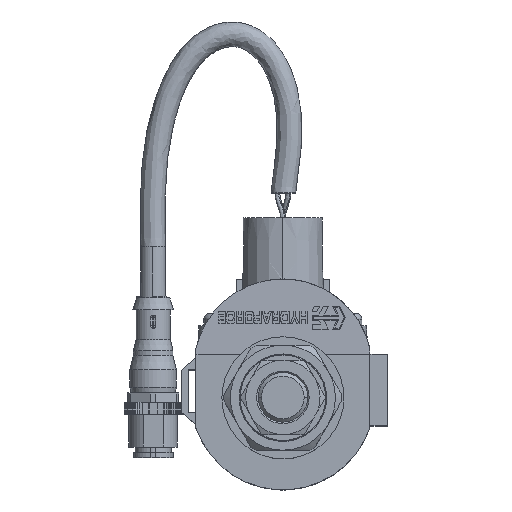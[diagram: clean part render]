
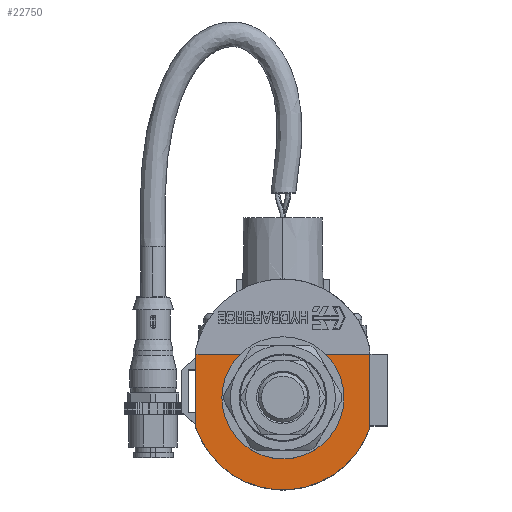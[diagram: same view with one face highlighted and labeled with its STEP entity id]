
A CAD part, top view. The second image highlights one B-rep face of the part: STEP entity #22750.
In plain terms, the highlighted planar face has unit normal (0, 0, 1).
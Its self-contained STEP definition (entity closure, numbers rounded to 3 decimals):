
#4967=DIRECTION('',(-1.,0.,0.));
#4968=VECTOR('',#4967,11.062);
#4969=CARTESIAN_POINT('',(-11.214,11.252,24.384));
#4970=LINE('',#4969,#4968);
#7262=CARTESIAN_POINT('',(0.,0.,24.384));
#7263=DIRECTION('',(0.,0.,1.));
#7264=DIRECTION('',(-0.803,0.596,0.));
#7265=AXIS2_PLACEMENT_3D('',#7262,#7263,#7264);
#7267=CARTESIAN_POINT('',(0.,0.,24.384));
#7268=DIRECTION('',(0.,0.,1.));
#7269=DIRECTION('',(-1.,0.,0.));
#7270=AXIS2_PLACEMENT_3D('',#7267,#7268,#7269);
#7272=CARTESIAN_POINT('',(0.,0.,24.384));
#7273=DIRECTION('',(0.,0.,1.));
#7274=DIRECTION('',(1.,0.,0.));
#7275=AXIS2_PLACEMENT_3D('',#7272,#7273,#7274);
#7277=DIRECTION('',(0.,1.,0.));
#7278=VECTOR('',#7277,2.921);
#7279=CARTESIAN_POINT('',(11.214,8.331,24.384));
#7280=LINE('',#7279,#7278);
#7281=DIRECTION('',(1.,0.,0.));
#7282=VECTOR('',#7281,11.062);
#7283=CARTESIAN_POINT('',(11.214,11.252,24.384));
#7284=LINE('',#7283,#7282);
#7285=DIRECTION('',(0.,-1.,0.));
#7286=VECTOR('',#7285,18.923);
#7287=CARTESIAN_POINT('',(22.276,11.252,24.384));
#7288=LINE('',#7287,#7286);
#7289=CARTESIAN_POINT('',(0.,0.,24.384));
#7290=DIRECTION('',(0.,0.,-1.));
#7291=DIRECTION('',(0.946,-0.326,0.));
#7292=AXIS2_PLACEMENT_3D('',#7289,#7290,#7291);
#7294=DIRECTION('',(0.,1.,0.));
#7295=VECTOR('',#7294,18.923);
#7296=CARTESIAN_POINT('',(-22.276,-7.671,24.384));
#7297=LINE('',#7296,#7295);
#7298=DIRECTION('',(0.,-1.,0.));
#7299=VECTOR('',#7298,2.921);
#7300=CARTESIAN_POINT('',(-11.214,11.252,24.384));
#7301=LINE('',#7300,#7299);
#18690=CARTESIAN_POINT('',(11.214,11.252,24.384));
#18691=CARTESIAN_POINT('',(-11.214,11.252,24.384));
#18692=VERTEX_POINT('',#18690);
#18693=VERTEX_POINT('',#18691);
#18694=CARTESIAN_POINT('',(-22.276,11.252,24.384));
#18695=VERTEX_POINT('',#18694);
#18703=CARTESIAN_POINT('',(22.276,11.252,24.384));
#18704=VERTEX_POINT('',#18703);
#18974=CARTESIAN_POINT('',(-11.214,8.331,24.384));
#18976=VERTEX_POINT('',#18974);
#18983=CARTESIAN_POINT('',(11.214,8.331,24.384));
#18984=VERTEX_POINT('',#18983);
#19172=CARTESIAN_POINT('',(-13.97,0.,24.384));
#19174=VERTEX_POINT('',#19172);
#19213=CARTESIAN_POINT('',(13.97,0.,24.384));
#19214=VERTEX_POINT('',#19213);
#19325=CARTESIAN_POINT('',(22.276,-7.671,24.384));
#19326=VERTEX_POINT('',#19325);
#19327=CARTESIAN_POINT('',(-22.276,-7.671,24.384));
#19328=VERTEX_POINT('',#19327);
#22729=CARTESIAN_POINT('',(0.,11.252,24.384));
#22730=DIRECTION('',(0.,0.,-1.));
#22731=DIRECTION('',(0.,1.,0.));
#22732=AXIS2_PLACEMENT_3D('',#22729,#22730,#22731);
#22733=PLANE('',#22732);
#22734=ORIENTED_EDGE('',*,*,#22614,.T.);
#22735=ORIENTED_EDGE('',*,*,#22437,.T.);
#22736=ORIENTED_EDGE('',*,*,#22558,.T.);
#22738=ORIENTED_EDGE('',*,*,#22737,.T.);
#22739=ORIENTED_EDGE('',*,*,#21527,.T.);
#22741=ORIENTED_EDGE('',*,*,#22740,.T.);
#22743=ORIENTED_EDGE('',*,*,#22742,.T.);
#22745=ORIENTED_EDGE('',*,*,#22744,.T.);
#22746=ORIENTED_EDGE('',*,*,#21515,.F.);
#22747=ORIENTED_EDGE('',*,*,#21889,.T.);
#22748=EDGE_LOOP('',(#22734,#22735,#22736,#22738,#22739,#22741,#22743,#22745,
#22746,#22747));
#22749=FACE_OUTER_BOUND('',#22748,.F.);
#22750=ADVANCED_FACE('',(#22749),#22733,.F.);
#7266=CIRCLE('',#7265,13.97);
#7271=CIRCLE('',#7270,13.97);
#7276=CIRCLE('',#7275,13.97);
#7293=CIRCLE('',#7292,23.56);
#21515=EDGE_CURVE('',#18693,#18695,#4970,.T.);
#21527=EDGE_CURVE('',#18692,#18704,#7284,.T.);
#21889=EDGE_CURVE('',#18693,#18976,#7301,.T.);
#22437=EDGE_CURVE('',#19174,#19214,#7271,.T.);
#22558=EDGE_CURVE('',#19214,#18984,#7276,.T.);
#22614=EDGE_CURVE('',#18976,#19174,#7266,.T.);
#22737=EDGE_CURVE('',#18984,#18692,#7280,.T.);
#22740=EDGE_CURVE('',#18704,#19326,#7288,.T.);
#22742=EDGE_CURVE('',#19326,#19328,#7293,.T.);
#22744=EDGE_CURVE('',#19328,#18695,#7297,.T.);
